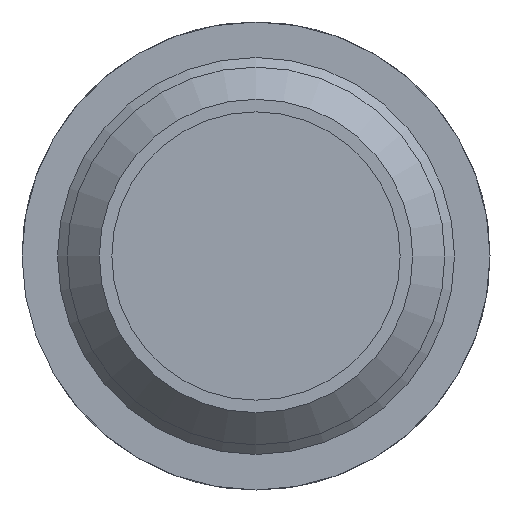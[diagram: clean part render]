
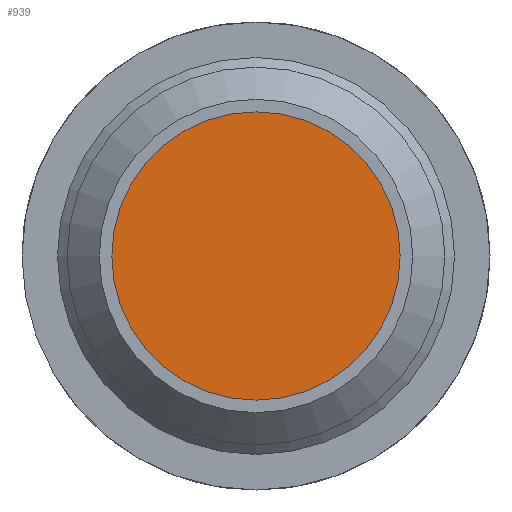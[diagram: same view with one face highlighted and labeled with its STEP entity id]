
A CAD part, left-side view. The second image highlights one B-rep face of the part: STEP entity #939.
In plain terms, the highlighted planar face has unit normal (-1, 0, 0).
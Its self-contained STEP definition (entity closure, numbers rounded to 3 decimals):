
#120=PLANE($,#1072);
#193=FACE_OUTER_BOUND($,#260,.T.);
#260=EDGE_LOOP($,(#731));
#344=CIRCLE($,#1073,47.5);
#433=VERTEX_POINT($,#1904);
#558=EDGE_CURVE($,#433,#433,#344,.T.);
#731=ORIENTED_EDGE($,*,*,#558,.F.);
#939=ADVANCED_FACE($,(#193),#120,.T.);
#1072=AXIS2_PLACEMENT_3D($,#1903,#1355,#1356);
#1073=AXIS2_PLACEMENT_3D($,#1905,#1357,#1358);
#1355=DIRECTION('center_axis',(-1.,0.,0.));
#1356=DIRECTION('ref_axis',(0.,0.,1.));
#1357=DIRECTION('center_axis',(1.,0.,0.));
#1358=DIRECTION('ref_axis',(0.,1.,0.));
#1903=CARTESIAN_POINT('Origin',(-5.,23.75,0.));
#1904=CARTESIAN_POINT('',(-5.,47.5,0.));
#1905=CARTESIAN_POINT('Origin',(-5.,0.,0.));
